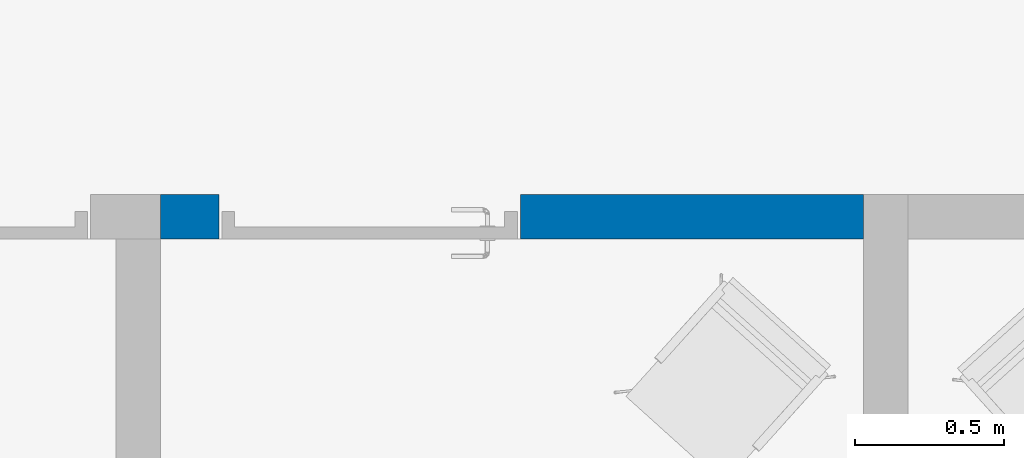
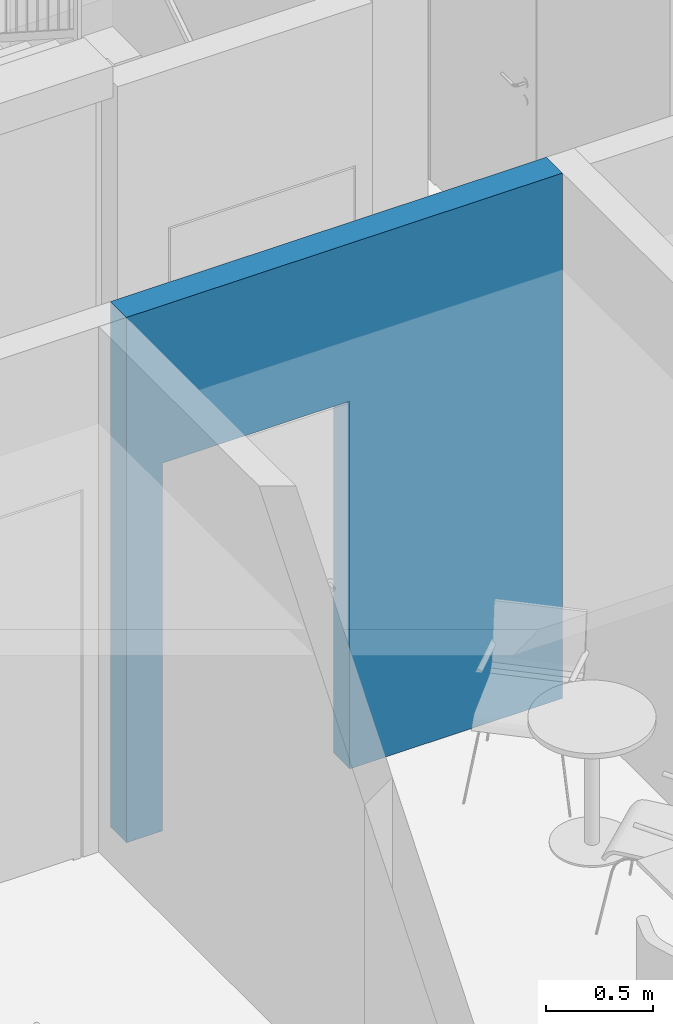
# One storey, part 17 of 58: 1 wall, 2 openings.
"""IFC2X3 building model written with IfcOpenShell, lengths in millimetres."""

from ifc_helpers import new_model, entity, si_unit, converted_unit, derived_unit, direction, frame, frame_2d, origin, origin_2d_with_axis, place, context, subcontext, project, spatial, rectangle, extrude, material, layer, layer_set, layer_usage, type_object, element, save


model = new_model("IFC2X3")

# Units and contexts
model_context = context("Model", 3, precision=0.01, world=origin(), true_north=direction((0.7716245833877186, 0.6360782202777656)))
body_context = subcontext(model_context, "Body", "Model", "MODEL_VIEW")
ifc_project = project(units=[si_unit("LENGTHUNIT", "METRE", prefix="MILLI"), si_unit("AREAUNIT", "SQUARE_METRE"), converted_unit("PLANEANGLEUNIT", "DEGREE", entity("IfcPlaneAngleMeasure", 0.017453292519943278), si_unit("PLANEANGLEUNIT", "RADIAN"), dimensions=[0, 0, 0, 0, 0, 0, 0]), derived_unit("THERMALTRANSMITTANCEUNIT", [(si_unit("MASSUNIT", "GRAM", prefix="KILO"), 1), (si_unit("THERMODYNAMICTEMPERATUREUNIT", "KELVIN"), -1), (si_unit("TIMEUNIT", "SECOND"), -3)])], contexts=[model_context])

# Site, building, storey
site_placement = place(None, origin())
site = spatial("IfcSite", under=ifc_project, at=site_placement, Name="Default", CompositionType="ELEMENT")
building_placement = place(site_placement, origin())
building = spatial("IfcBuilding", under=site, at=building_placement, CompositionType="ELEMENT")
storey_placement = place(building_placement, frame((0.0, 0.0, 31140.0)))
storey = spatial("IfcBuildingStorey", under=building, at=storey_placement, Name="PLAN U1", CompositionType="ELEMENT", Elevation=31140.000000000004)

# Wall, openings
ifc_material = material(Name="Eksist. vegg")
ifc_layer = layer(ifc_material, 150.0)
ifc_layer_set = layer_set([ifc_layer], Name="Basic Wall:240 Eksist. Innervegg 150 mm")
ifc_layer_usage = layer_usage(ifc_layer_set, "AXIS2", "NEGATIVE", 75.0)
wall_type = type_object("IfcWallType", Name="Basic Wall:240 Eksist. Innervegg 150 mm", PredefinedType="STANDARD", material=ifc_layer_set)
wall_placement = place(storey_placement, frame((268337.5564872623, 57590.25555007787, 0.0)))
wall = element("IfcWallStandardCase", 1, at=wall_placement, inside=storey, type_object=wall_type, material=ifc_layer_usage, Name="Basic Wall:240 Eksist. Innervegg 150 mm", ObjectType="Basic Wall:240 Eksist. Innervegg 150 mm", context=body_context, shape_type="SweptSolid", body=[
    extrude(rectangle(XDim=2355.3679592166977, YDim=150.00000000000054, at=frame_2d((1177.6839796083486, -9.308109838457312e-13), x_axis=(1.0, 0.0))), origin(), (0.0, 0.0, 1.0), 2999.9999999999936),
])
opening_1_placement = place(wall_placement, frame((1205.3679592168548, 75.0, 0.0)))
element("IfcOpeningElement", 2, at=opening_1_placement, cuts=wall, Name="Enfløyet:2441 Innvendig 10x21M:1", ObjectType="Opening", context=body_context, shape_type="SweptSolid", body=[
    extrude(rectangle(XDim=2100.0, YDim=1009.9999999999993, at=frame_2d((1049.9999999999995, 504.99999999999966), x_axis=(1.0, 0.0))), frame((0.0, 0.0, 0.0), z_axis=(0.0, -1.0, 0.0), x_axis=(0.0, 0.0, 1.0)), (0.0, 0.0, 1.0), 150.0),
])
opening_2_placement = place(wall_placement, frame((-268337.5564872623, -57590.25555007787, 0.0)))
element("IfcOpeningElement", 3, at=opening_2_placement, cuts=wall, Name="Basic Wall:240 Eksist. Innervegg 150 mm", ObjectType="Opening", context=body_context, shape_type="SweptSolid", body=[
    extrude(rectangle(XDim=2099.999999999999, YDim=1010.000000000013, at=origin_2d_with_axis()), frame((269037.9244464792, 56141.25555007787, 1050.0), z_axis=(0.0, 1.0, 0.0), x_axis=(0.0, 0.0, 1.0)), (0.0, 0.0, 1.0), 3048.0),
])

save(model, "model.ifc")
